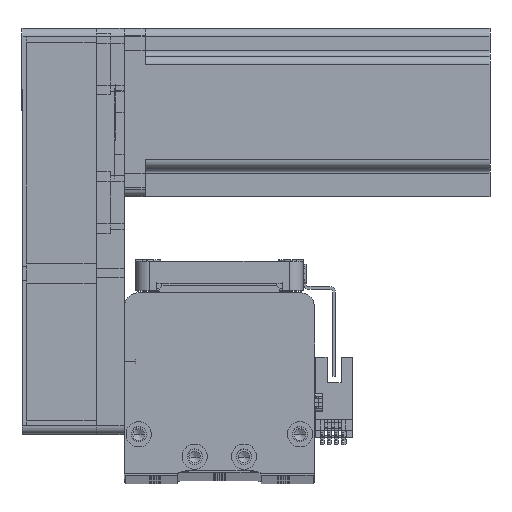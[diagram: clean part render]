
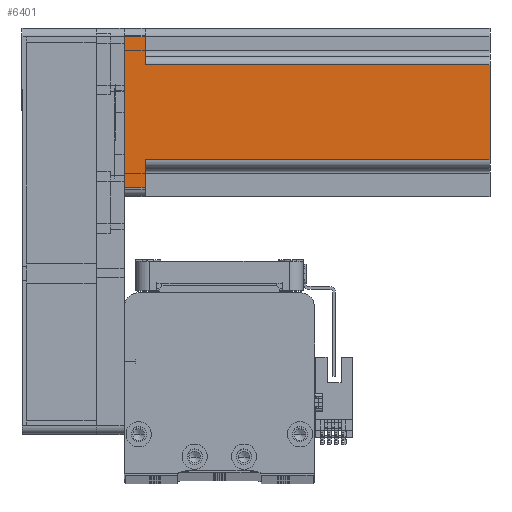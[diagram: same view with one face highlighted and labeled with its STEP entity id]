
A CAD part, top view. The second image highlights one B-rep face of the part: STEP entity #6401.
In plain terms, the highlighted planar face has unit normal (0, 0, 1) as drawn and (0, 1, 0) by its records, which use the part's own axes.
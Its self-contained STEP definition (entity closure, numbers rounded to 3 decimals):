
#413 = CARTESIAN_POINT ( 'NONE',  ( -17., 30., 130.7 ) ) ;
#1195 = VERTEX_POINT ( 'NONE', #15724 ) ;
#1283 = LINE ( 'NONE', #35663, #33644 ) ;
#4093 = VECTOR ( 'NONE', #52857, 1000. ) ;
#4603 = VECTOR ( 'NONE', #54650, 1000. ) ;
#4608 = VERTEX_POINT ( 'NONE', #36656 ) ;
#5454 = ORIENTED_EDGE ( 'NONE', *, *, #11958, .T. ) ;
#5945 = LINE ( 'NONE', #25559, #4603 ) ;
#6387 = CARTESIAN_POINT ( 'NONE',  ( -17., 30., 130.7 ) ) ;
#6401 = ADVANCED_FACE ( 'NONE', ( #43285 ), #7728, .F. ) ;
#6691 = CARTESIAN_POINT ( 'NONE',  ( -27., 30., 0. ) ) ;
#7112 = EDGE_CURVE ( 'NONE', #52058, #17268, #11835, .T. ) ;
#7380 = VERTEX_POINT ( 'NONE', #48652 ) ;
#7387 = VERTEX_POINT ( 'NONE', #6691 ) ;
#7479 = VECTOR ( 'NONE', #22192, 1000. ) ;
#7728 = PLANE ( 'NONE',  #23456 ) ;
#8654 = ORIENTED_EDGE ( 'NONE', *, *, #11536, .T. ) ;
#9425 = CARTESIAN_POINT ( 'NONE',  ( 17., 30., 130.7 ) ) ;
#9649 = ORIENTED_EDGE ( 'NONE', *, *, #27254, .T. ) ;
#9946 = ORIENTED_EDGE ( 'NONE', *, *, #39809, .F. ) ;
#10030 = DIRECTION ( 'NONE',  ( 1., 0., 0. ) ) ;
#11536 = EDGE_CURVE ( 'NONE', #7380, #7387, #1283, .T. ) ;
#11835 = LINE ( 'NONE', #413, #32945 ) ;
#11958 = EDGE_CURVE ( 'NONE', #30436, #52058, #38929, .T. ) ;
#13164 = DIRECTION ( 'NONE',  ( 0., 0., 1. ) ) ;
#13838 = LINE ( 'NONE', #40928, #46111 ) ;
#14022 = LINE ( 'NONE', #14760, #4093 ) ;
#14659 = DIRECTION ( 'NONE',  ( -1., 0., 0. ) ) ;
#14760 = CARTESIAN_POINT ( 'NONE',  ( 27., 30., 130.7 ) ) ;
#15724 = CARTESIAN_POINT ( 'NONE',  ( 17., 30., 7.5 ) ) ;
#17268 = VERTEX_POINT ( 'NONE', #6387 ) ;
#19965 = DIRECTION ( 'NONE',  ( 0., 0., -1. ) ) ;
#22192 = DIRECTION ( 'NONE',  ( -1., 0., 0. ) ) ;
#23063 = ORIENTED_EDGE ( 'NONE', *, *, #42666, .T. ) ;
#23456 = AXIS2_PLACEMENT_3D ( 'NONE', #24721, #54139, #28926 ) ;
#24583 = VERTEX_POINT ( 'NONE', #9425 ) ;
#24721 = CARTESIAN_POINT ( 'NONE',  ( 30., 30., 130.7 ) ) ;
#25559 = CARTESIAN_POINT ( 'NONE',  ( 20., 30., 7.5 ) ) ;
#27009 = VECTOR ( 'NONE', #46300, 1000. ) ;
#27074 = EDGE_CURVE ( 'NONE', #24583, #17268, #50937, .T. ) ;
#27254 = EDGE_CURVE ( 'NONE', #4608, #7380, #14022, .T. ) ;
#28024 = CARTESIAN_POINT ( 'NONE',  ( -17., 30., 7.5 ) ) ;
#28447 = ORIENTED_EDGE ( 'NONE', *, *, #7112, .T. ) ;
#28926 = DIRECTION ( 'NONE',  ( 1., 0., 0. ) ) ;
#30436 = VERTEX_POINT ( 'NONE', #34920 ) ;
#32945 = VECTOR ( 'NONE', #13164, 1000. ) ;
#33644 = VECTOR ( 'NONE', #14659, 1000. ) ;
#34920 = CARTESIAN_POINT ( 'NONE',  ( -27., 30., 7.5 ) ) ;
#35281 = CARTESIAN_POINT ( 'NONE',  ( -20., 30., 7.5 ) ) ;
#35663 = CARTESIAN_POINT ( 'NONE',  ( 30., 30., 0. ) ) ;
#35728 = ORIENTED_EDGE ( 'NONE', *, *, #53106, .T. ) ;
#36656 = CARTESIAN_POINT ( 'NONE',  ( 27., 30., 7.5 ) ) ;
#38929 = LINE ( 'NONE', #35281, #51419 ) ;
#39809 = EDGE_CURVE ( 'NONE', #4608, #1195, #5945, .T. ) ;
#40928 = CARTESIAN_POINT ( 'NONE',  ( 17., 30., 130.7 ) ) ;
#42092 = CARTESIAN_POINT ( 'NONE',  ( -27., 30., 130.7 ) ) ;
#42666 = EDGE_CURVE ( 'NONE', #7387, #30436, #50701, .T. ) ;
#43285 = FACE_OUTER_BOUND ( 'NONE', #53833, .T. ) ;
#46111 = VECTOR ( 'NONE', #19965, 1000. ) ;
#46300 = DIRECTION ( 'NONE',  ( 0., 0., 1. ) ) ;
#48652 = CARTESIAN_POINT ( 'NONE',  ( 27., 30., 0. ) ) ;
#50701 = LINE ( 'NONE', #42092, #27009 ) ;
#50937 = LINE ( 'NONE', #51590, #7479 ) ;
#51419 = VECTOR ( 'NONE', #10030, 1000. ) ;
#51590 = CARTESIAN_POINT ( 'NONE',  ( 30., 30., 130.7 ) ) ;
#52058 = VERTEX_POINT ( 'NONE', #28024 ) ;
#52857 = DIRECTION ( 'NONE',  ( 0., 0., -1. ) ) ;
#53106 = EDGE_CURVE ( 'NONE', #24583, #1195, #13838, .T. ) ;
#53833 = EDGE_LOOP ( 'NONE', ( #5454, #28447, #54364, #35728, #9946, #9649, #8654, #23063 ) ) ;
#54139 = DIRECTION ( 'NONE',  ( 0., -1., 0. ) ) ;
#54364 = ORIENTED_EDGE ( 'NONE', *, *, #27074, .F. ) ;
#54650 = DIRECTION ( 'NONE',  ( -1., 0., 0. ) ) ;
